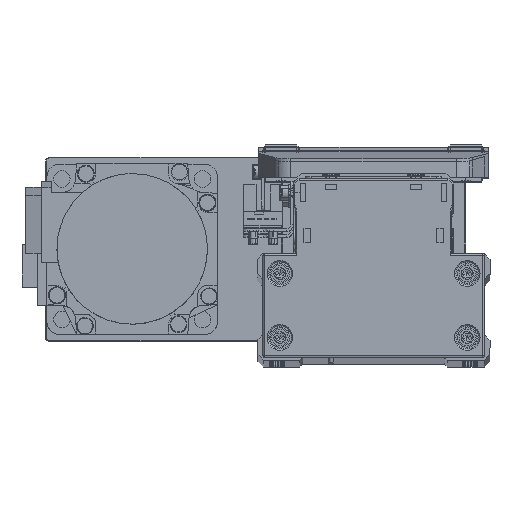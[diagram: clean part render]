
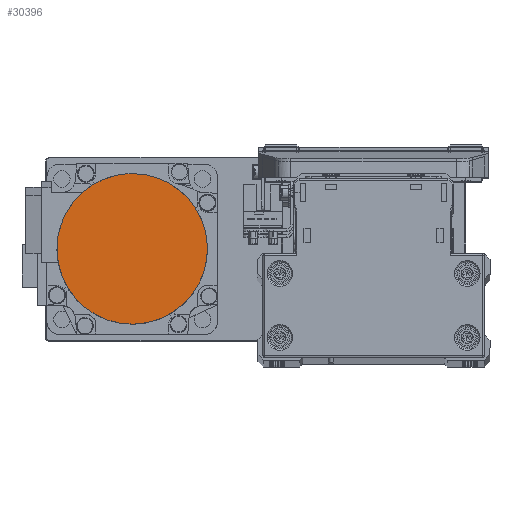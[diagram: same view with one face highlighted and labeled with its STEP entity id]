
A CAD part, top view. The second image highlights one B-rep face of the part: STEP entity #30396.
In plain terms, the highlighted planar face has unit normal (0, 0, 1) as drawn and (0, 0, -1) by its records, which use the part's own axes.
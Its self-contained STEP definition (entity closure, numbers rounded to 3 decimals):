
#1268 = CARTESIAN_POINT ( 'NONE',  ( -26.329, -3.469, -88. ) ) ;
#1485 = CARTESIAN_POINT ( 'NONE',  ( -3.469, -26.329, -88. ) ) ;
#1656 = CARTESIAN_POINT ( 'NONE',  ( 16.165, 21.07, -88. ) ) ;
#1700 = CARTESIAN_POINT ( 'NONE',  ( 23.819, -11.744, -88. ) ) ;
#1852 = CARTESIAN_POINT ( 'NONE',  ( -16.165, 21.07, -88. ) ) ;
#4700 = CARTESIAN_POINT ( 'NONE',  ( -11.744, -23.819, -88. ) ) ;
#4854 = ORIENTED_EDGE ( 'NONE', *, *, #27787, .F. ) ;
#4862 = CARTESIAN_POINT ( 'NONE',  ( 21.07, 16.165, -88. ) ) ;
#4904 = CARTESIAN_POINT ( 'NONE',  ( 19.965, -17.512, -88. ) ) ;
#5076 = CARTESIAN_POINT ( 'NONE',  ( -8.539, 25.147, -88. ) ) ;
#5282 = CARTESIAN_POINT ( 'NONE',  ( -26.5, 0., -88. ) ) ;
#6939 = B_SPLINE_CURVE_WITH_KNOTS ( 'NONE', 3,
 ( #17625, #30690, #1268, #14379, #27474, #40554, #11180, #24264, #37333, #7947, #21047, #34102, #4700, #17829, #30892, #1485, #14605, #27686, #40767, #11388, #24470, #37533, #8145, #21248, #34316, #4904, #18044, #31107, #1700, #14812, #27885, #40965, #11586, #24670 ),
 .UNSPECIFIED., .F., .F.,
 ( 4, 2, 2, 2, 2, 2, 2, 2, 2, 2, 2, 2, 2, 2, 2, 2, 4 ),
 ( 0., 0.063, 0.125, 0.188, 0.25, 0.313, 0.375, 0.438, 0.5, 0.563, 0.625, 0.688, 0.75, 0.813, 0.875, 0.938, 1. ),
 .UNSPECIFIED. ) ;
#7947 = CARTESIAN_POINT ( 'NONE',  ( -17.512, -19.965, -88. ) ) ;
#8106 = CARTESIAN_POINT ( 'NONE',  ( 25.147, 8.539, -88. ) ) ;
#8145 = CARTESIAN_POINT ( 'NONE',  ( 13.28, -22.998, -88. ) ) ;
#8310 = CARTESIAN_POINT ( 'NONE',  ( -1.734, 26.5, -88. ) ) ;
#8527 = CARTESIAN_POINT ( 'NONE',  ( -25.652, 6.871, -88. ) ) ;
#8731 = VERTEX_POINT ( 'NONE', #25735 ) ;
#10283 = DIRECTION ( 'NONE',  ( 0., 0., 1. ) ) ;
#11180 = CARTESIAN_POINT ( 'NONE',  ( -22.998, -13.28, -88. ) ) ;
#11237 = ORIENTED_EDGE ( 'NONE', *, *, #19653, .F. ) ;
#11349 = CARTESIAN_POINT ( 'NONE',  ( 26.5, 1.734, -88. ) ) ;
#11388 = CARTESIAN_POINT ( 'NONE',  ( 6.871, -25.652, -88. ) ) ;
#11546 = CARTESIAN_POINT ( 'NONE',  ( 6.871, 25.652, -88. ) ) ;
#11586 = CARTESIAN_POINT ( 'NONE',  ( 26.5, -1.734, -88. ) ) ;
#11702 = CARTESIAN_POINT ( 'NONE',  ( -26.5, 0., -88. ) ) ;
#11753 = CARTESIAN_POINT ( 'NONE',  ( -22.998, 13.28, -88. ) ) ;
#13505 = FACE_OUTER_BOUND ( 'NONE', #18826, .T. ) ;
#14379 = CARTESIAN_POINT ( 'NONE',  ( -25.652, -6.871, -88. ) ) ;
#14605 = CARTESIAN_POINT ( 'NONE',  ( -1.734, -26.5, -88. ) ) ;
#14771 = CARTESIAN_POINT ( 'NONE',  ( 13.28, 22.998, -88. ) ) ;
#14812 = CARTESIAN_POINT ( 'NONE',  ( 25.147, -8.539, -88. ) ) ;
#14968 = CARTESIAN_POINT ( 'NONE',  ( -17.512, 19.965, -88. ) ) ;
#16902 = B_SPLINE_CURVE_WITH_KNOTS ( 'NONE', 3,
 ( #40725, #11349, #24431, #37490, #8106, #21204, #34265, #4862, #17996, #31056, #1656, #14771, #27846, #40925, #11546, #24627, #37687, #8310, #21416, #34480, #5076, #18213, #31267, #1852, #14968, #28047, #41127, #11753, #24841, #37907, #8527, #21629, #34696, #5282 ),
 .UNSPECIFIED., .F., .F.,
 ( 4, 2, 2, 2, 2, 2, 2, 2, 2, 2, 2, 2, 2, 2, 2, 2, 4 ),
 ( 0., 0.063, 0.125, 0.188, 0.25, 0.313, 0.375, 0.438, 0.5, 0.563, 0.625, 0.688, 0.75, 0.813, 0.875, 0.938, 1. ),
 .UNSPECIFIED. ) ;
#17625 = CARTESIAN_POINT ( 'NONE',  ( -26.5, 0., -88. ) ) ;
#17829 = CARTESIAN_POINT ( 'NONE',  ( -8.539, -25.147, -88. ) ) ;
#17996 = CARTESIAN_POINT ( 'NONE',  ( 19.965, 17.512, -88. ) ) ;
#18044 = CARTESIAN_POINT ( 'NONE',  ( 21.07, -16.165, -88. ) ) ;
#18213 = CARTESIAN_POINT ( 'NONE',  ( -11.744, 23.819, -88. ) ) ;
#18826 = EDGE_LOOP ( 'NONE', ( #4854, #11237 ) ) ;
#19653 = EDGE_CURVE ( 'NONE', #28158, #8731, #6939, .T. ) ;
#21047 = CARTESIAN_POINT ( 'NONE',  ( -16.165, -21.07, -88. ) ) ;
#21204 = CARTESIAN_POINT ( 'NONE',  ( 23.819, 11.744, -88. ) ) ;
#21248 = CARTESIAN_POINT ( 'NONE',  ( 16.165, -21.07, -88. ) ) ;
#21416 = CARTESIAN_POINT ( 'NONE',  ( -3.469, 26.329, -88. ) ) ;
#21629 = CARTESIAN_POINT ( 'NONE',  ( -26.329, 3.469, -88. ) ) ;
#23386 = DIRECTION ( 'NONE',  ( 1., 0., 0. ) ) ;
#24264 = CARTESIAN_POINT ( 'NONE',  ( -21.07, -16.165, -88. ) ) ;
#24431 = CARTESIAN_POINT ( 'NONE',  ( 26.329, 3.469, -88. ) ) ;
#24470 = CARTESIAN_POINT ( 'NONE',  ( 8.539, -25.147, -88. ) ) ;
#24627 = CARTESIAN_POINT ( 'NONE',  ( 3.469, 26.329, -88. ) ) ;
#24670 = CARTESIAN_POINT ( 'NONE',  ( 26.5, 0., -88. ) ) ;
#24841 = CARTESIAN_POINT ( 'NONE',  ( -23.819, 11.744, -88. ) ) ;
#25735 = CARTESIAN_POINT ( 'NONE',  ( 26.5, 0., -88. ) ) ;
#26595 = PLANE ( 'NONE',  #35731 ) ;
#27474 = CARTESIAN_POINT ( 'NONE',  ( -25.147, -8.539, -88. ) ) ;
#27686 = CARTESIAN_POINT ( 'NONE',  ( 1.734, -26.5, -88. ) ) ;
#27787 = EDGE_CURVE ( 'NONE', #8731, #28158, #16902, .T. ) ;
#27846 = CARTESIAN_POINT ( 'NONE',  ( 11.744, 23.819, -88. ) ) ;
#27885 = CARTESIAN_POINT ( 'NONE',  ( 25.652, -6.871, -88. ) ) ;
#28047 = CARTESIAN_POINT ( 'NONE',  ( -19.965, 17.512, -88. ) ) ;
#28158 = VERTEX_POINT ( 'NONE', #11702 ) ;
#30396 = ADVANCED_FACE ( 'NONE', ( #13505 ), #26595, .F. ) ;
#30690 = CARTESIAN_POINT ( 'NONE',  ( -26.5, -1.734, -88. ) ) ;
#30892 = CARTESIAN_POINT ( 'NONE',  ( -6.871, -25.652, -88. ) ) ;
#31056 = CARTESIAN_POINT ( 'NONE',  ( 17.512, 19.965, -88. ) ) ;
#31107 = CARTESIAN_POINT ( 'NONE',  ( 22.998, -13.28, -88. ) ) ;
#31267 = CARTESIAN_POINT ( 'NONE',  ( -13.28, 22.998, -88. ) ) ;
#34102 = CARTESIAN_POINT ( 'NONE',  ( -13.28, -22.998, -88. ) ) ;
#34265 = CARTESIAN_POINT ( 'NONE',  ( 22.998, 13.28, -88. ) ) ;
#34316 = CARTESIAN_POINT ( 'NONE',  ( 17.512, -19.965, -88. ) ) ;
#34480 = CARTESIAN_POINT ( 'NONE',  ( -6.871, 25.652, -88. ) ) ;
#34696 = CARTESIAN_POINT ( 'NONE',  ( -26.5, 1.734, -88. ) ) ;
#35731 = AXIS2_PLACEMENT_3D ( 'NONE', #39667, #10283, #23386 ) ;
#37333 = CARTESIAN_POINT ( 'NONE',  ( -19.965, -17.512, -88. ) ) ;
#37490 = CARTESIAN_POINT ( 'NONE',  ( 25.652, 6.871, -88. ) ) ;
#37533 = CARTESIAN_POINT ( 'NONE',  ( 11.744, -23.819, -88. ) ) ;
#37687 = CARTESIAN_POINT ( 'NONE',  ( 1.734, 26.5, -88. ) ) ;
#37907 = CARTESIAN_POINT ( 'NONE',  ( -25.147, 8.539, -88. ) ) ;
#39667 = CARTESIAN_POINT ( 'NONE',  ( 0., 0., -88. ) ) ;
#40554 = CARTESIAN_POINT ( 'NONE',  ( -23.819, -11.744, -88. ) ) ;
#40725 = CARTESIAN_POINT ( 'NONE',  ( 26.5, 0., -88. ) ) ;
#40767 = CARTESIAN_POINT ( 'NONE',  ( 3.469, -26.329, -88. ) ) ;
#40925 = CARTESIAN_POINT ( 'NONE',  ( 8.539, 25.147, -88. ) ) ;
#40965 = CARTESIAN_POINT ( 'NONE',  ( 26.329, -3.469, -88. ) ) ;
#41127 = CARTESIAN_POINT ( 'NONE',  ( -21.07, 16.165, -88. ) ) ;
